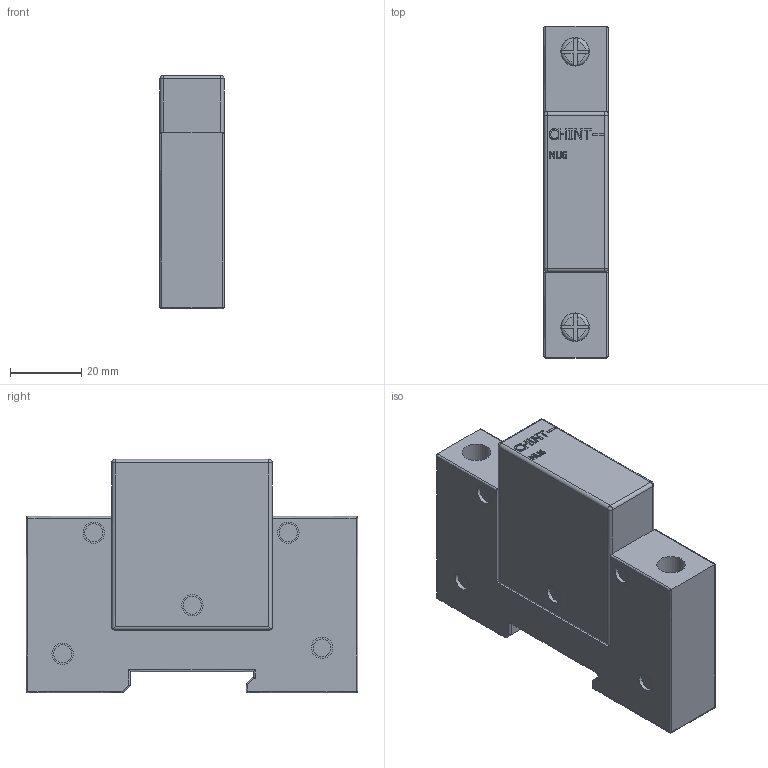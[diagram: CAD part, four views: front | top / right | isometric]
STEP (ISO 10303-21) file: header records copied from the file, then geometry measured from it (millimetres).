
FILE_DESCRIPTION(/* description */ (''),/* implementation_level */ '2;1');
FILE_NAME(/* name */ 'D:\CHINT\NU6\Имп. ограничитель NU6 40kA 1P (CHINT).stp',/* time_stamp */ '2017-09-30T15:53:37+04:00',/* author */ ('RSagdiev'),/* organization */ (''),/* preprocessor_version */ 'ST-DEVELOPER v16.5',/* originating_system */ 'Autodesk Inventor 2017',/* authorisation */ '');
FILE_SCHEMA (('AUTOMOTIVE_DESIGN { 1 0 10303 214 3 1 1 }'));
Length unit declared in the file: millimetre
Products named in the file (1): Имп. \X2\043E043304400430043D043804470438
04420435043B044C\X0\ NU6 40kA 1P (CHINT)
Bounding box: 18 x 93 x 65.6 mm (x, y, z)
Volume: 91300.3 mm3; surface area: 21428.5 mm2
Topology: 14 solids, 14 shells, 292 faces, 685 edges, 440 vertices
Faces by surface type: plane 169, bspline 59, cylinder 58, sphere 4, torus 2
Full cylindrical faces by diameter (mm): 5 x10, 6 x19, 8 x4
Entity records: 9134 total; most frequent: CARTESIAN_POINT 2786, ORIENTED_EDGE 1292, DIRECTION 1136, EDGE_CURVE 646, VERTEX_POINT 438, LINE 410, VECTOR 410, EDGE_LOOP 368
